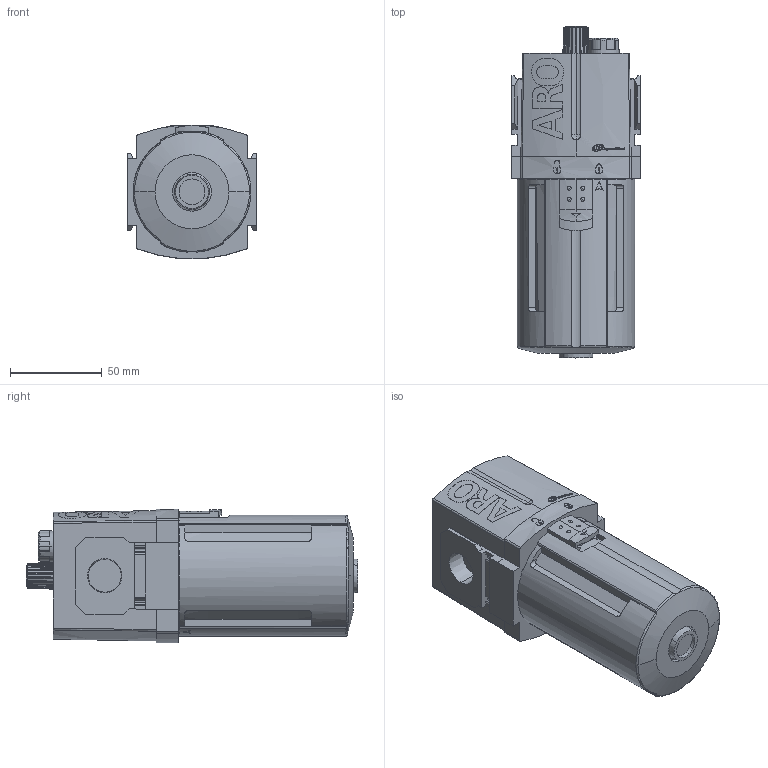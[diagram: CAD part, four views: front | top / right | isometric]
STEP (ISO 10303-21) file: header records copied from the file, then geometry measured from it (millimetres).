
FILE_DESCRIPTION(/* description */ (''),/* implementation_level */ '2;1');
FILE_NAME(/* name */ 'L363X1-X0X_01',/* time_stamp */ '2009-02-05T13:50:42-05:00',/* author */ (''),/* organization */ (''),/* preprocessor_version */ 'ST-DEVELOPER v9',/* originating_system */ 'UGS - NX 4.0',/* authorisation */ '');
FILE_SCHEMA (('AUTOMOTIVE_DESIGN { 1 0 10303 214 1 1 1 1 }'));
Length unit declared in the file: inch
Products named in the file (1): szee378Clf3n
Bounding box: 70 x 180.5 x 72.79 mm (x, y, z)
Volume: 556422.9 mm3; surface area: 85920.2 mm2
Topology: 1 solids, 1 shells, 1141 faces, 3107 edges, 2066 vertices
Faces by surface type: plane 828, cylinder 140, extrusion 81, cone 65, torus 11, bspline 8, sphere 8
Entity records: 49777 total; most frequent: CARTESIAN_POINT 13283, ORIENTED_EDGE 6196, DIRECTION 5411, EDGE_CURVE 3098, VECTOR 2139, VERTEX_POINT 2063, LINE 2058, AXIS2_PLACEMENT_3D 1636
